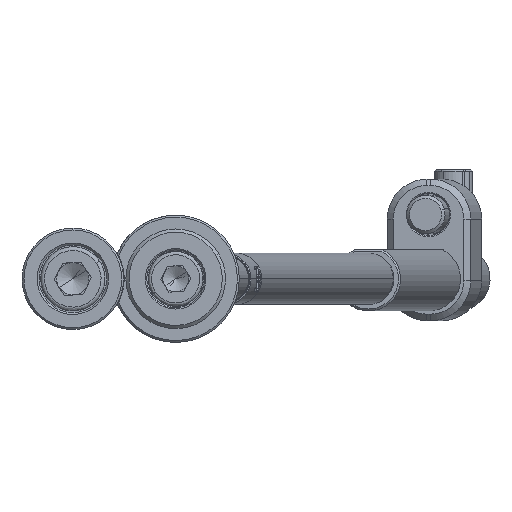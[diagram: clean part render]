
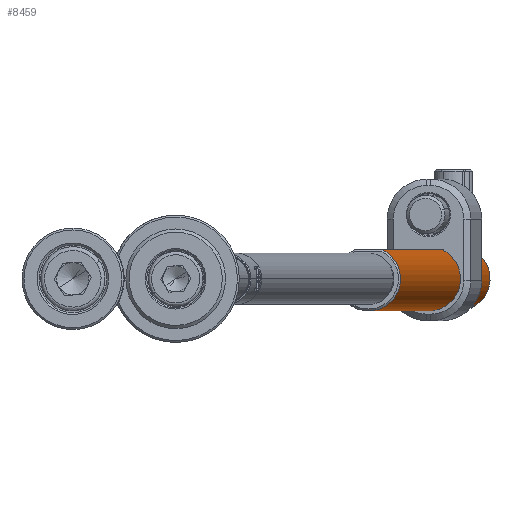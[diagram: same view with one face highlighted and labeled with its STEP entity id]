
A CAD part, front view. The second image highlights one B-rep face of the part: STEP entity #8459.
In plain terms, the highlighted cylindrical face has radius 5 mm (diameter 10 mm), a partial arc.
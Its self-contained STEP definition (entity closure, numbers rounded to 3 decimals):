
#26 = EDGE_CURVE ( 'NONE', #3708, #10076, #8995, .T. ) ;
#183 = VECTOR ( 'NONE', #8786, 1000. ) ;
#238 = CARTESIAN_POINT ( 'NONE',  ( 4.202, -2.711, 8.701 ) ) ;
#372 = CARTESIAN_POINT ( 'NONE',  ( 4.438, -2.307, 11.926 ) ) ;
#564 = CARTESIAN_POINT ( 'NONE',  ( 4.5, -2.179, 199.7 ) ) ;
#1264 = ORIENTED_EDGE ( 'NONE', *, *, #26, .T. ) ;
#1358 = CARTESIAN_POINT ( 'NONE',  ( -5., 0., 199.7 ) ) ;
#1374 = CYLINDRICAL_SURFACE ( 'NONE', #1771, 5. ) ;
#1481 = VECTOR ( 'NONE', #8097, 1000. ) ;
#1771 = AXIS2_PLACEMENT_3D ( 'NONE', #4673, #10110, #9027 ) ;
#2047 = CARTESIAN_POINT ( 'NONE',  ( 4.5, -2.179, 0.3 ) ) ;
#2374 = CARTESIAN_POINT ( 'NONE',  ( 4.376, -2.422, 8.22 ) ) ;
#2568 = CARTESIAN_POINT ( 'NONE',  ( 4.068, -2.908, 9.236 ) ) ;
#3039 = VECTOR ( 'NONE', #8203, 1000. ) ;
#3376 = CIRCLE ( 'NONE', #9542, 5. ) ;
#3508 = FACE_OUTER_BOUND ( 'NONE', #3553, .T. ) ;
#3553 = EDGE_LOOP ( 'NONE', ( #1264, #5240, #12947, #7069, #13514, #6662 ) ) ;
#3635 = DIRECTION ( 'NONE',  ( 1., 0., 0. ) ) ;
#3656 = LINE ( 'NONE', #4593, #1481 ) ;
#3657 = CARTESIAN_POINT ( 'NONE',  ( 4.015, -2.98, 10.396 ) ) ;
#3708 = VERTEX_POINT ( 'NONE', #564 ) ;
#4109 = EDGE_CURVE ( 'NONE', #9919, #11823, #12592, .T. ) ;
#4183 = AXIS2_PLACEMENT_3D ( 'NONE', #9103, #8022, #4740 ) ;
#4199 = CARTESIAN_POINT ( 'NONE',  ( 4.5, -2.179, 200. ) ) ;
#4523 = EDGE_CURVE ( 'NONE', #3708, #9919, #9661, .T. ) ;
#4593 = CARTESIAN_POINT ( 'NONE',  ( 4.5, -2.179, 200. ) ) ;
#4673 = CARTESIAN_POINT ( 'NONE',  ( 0., 0., 200. ) ) ;
#4740 = DIRECTION ( 'NONE',  ( 1., 0., 0. ) ) ;
#5051 = VERTEX_POINT ( 'NONE', #7162 ) ;
#5240 = ORIENTED_EDGE ( 'NONE', *, *, #14057, .T. ) ;
#5456 = EDGE_CURVE ( 'NONE', #5051, #5984, #3376, .T. ) ;
#5611 = CARTESIAN_POINT ( 'NONE',  ( 4.107, -2.852, 9.051 ) ) ;
#5984 = VERTEX_POINT ( 'NONE', #2047 ) ;
#6219 = CARTESIAN_POINT ( 'NONE',  ( 4.5, -2.179, 12.062 ) ) ;
#6662 = ORIENTED_EDGE ( 'NONE', *, *, #4523, .F. ) ;
#6808 = CARTESIAN_POINT ( 'NONE',  ( 4.5, -2.179, 12.062 ) ) ;
#6868 = CARTESIAN_POINT ( 'NONE',  ( 4.258, -2.623, 8.532 ) ) ;
#7069 = ORIENTED_EDGE ( 'NONE', *, *, #9683, .F. ) ;
#7162 = CARTESIAN_POINT ( 'NONE',  ( -5., 0., 0.3 ) ) ;
#7809 = CARTESIAN_POINT ( 'NONE',  ( 4.259, -2.621, 11.47 ) ) ;
#8022 = DIRECTION ( 'NONE',  ( 0., 0., -1. ) ) ;
#8027 = CARTESIAN_POINT ( 'NONE',  ( 4., -3., 9.809 ) ) ;
#8097 = DIRECTION ( 'NONE',  ( 0., 0., -1. ) ) ;
#8203 = DIRECTION ( 'NONE',  ( 0., 0., -1. ) ) ;
#8459 = ADVANCED_FACE ( 'NONE', ( #3508 ), #1374, .T. ) ;
#8786 = DIRECTION ( 'NONE',  ( 0., 0., -1. ) ) ;
#8995 = CIRCLE ( 'NONE', #4183, 5. ) ;
#9027 = DIRECTION ( 'NONE',  ( -1., 0., 0. ) ) ;
#9028 = CARTESIAN_POINT ( 'NONE',  ( 4.069, -2.906, 10.771 ) ) ;
#9103 = CARTESIAN_POINT ( 'NONE',  ( 0., 0., 199.7 ) ) ;
#9282 = CARTESIAN_POINT ( 'NONE',  ( -5., 0., 200. ) ) ;
#9419 = LINE ( 'NONE', #9282, #3039 ) ;
#9542 = AXIS2_PLACEMENT_3D ( 'NONE', #13699, #11444, #3635 ) ;
#9661 = LINE ( 'NONE', #4199, #183 ) ;
#9683 = EDGE_CURVE ( 'NONE', #11823, #5984, #3656, .T. ) ;
#9919 = VERTEX_POINT ( 'NONE', #6219 ) ;
#10056 = CARTESIAN_POINT ( 'NONE',  ( 4., -3., 10.198 ) ) ;
#10076 = VERTEX_POINT ( 'NONE', #1358 ) ;
#10110 = DIRECTION ( 'NONE',  ( 0., 0., -1. ) ) ;
#10112 = CARTESIAN_POINT ( 'NONE',  ( 4.108, -2.851, 10.952 ) ) ;
#11025 = CARTESIAN_POINT ( 'NONE',  ( 4.5, -2.179, 7.938 ) ) ;
#11266 = CARTESIAN_POINT ( 'NONE',  ( 4.376, -2.421, 11.781 ) ) ;
#11444 = DIRECTION ( 'NONE',  ( 0., 0., 1. ) ) ;
#11823 = VERTEX_POINT ( 'NONE', #11025 ) ;
#12205 = CARTESIAN_POINT ( 'NONE',  ( 4.203, -2.709, 11.303 ) ) ;
#12412 = CARTESIAN_POINT ( 'NONE',  ( 4.014, -2.982, 9.617 ) ) ;
#12592 = B_SPLINE_CURVE_WITH_KNOTS ( 'NONE', 3,
 ( #6808, #372, #11266, #7809, #12205, #10112, #9028, #3657, #10056, #8027, #12412, #2568, #5611, #238, #6868, #2374, #13304, #13370 ),
 .UNSPECIFIED., .F., .F.,
 ( 4, 2, 2, 2, 2, 2, 2, 2, 4 ),
 ( 0., 0.001, 0.001, 0.002, 0.002, 0.003, 0.003, 0.004, 0.005 ),
 .UNSPECIFIED. ) ;
#12947 = ORIENTED_EDGE ( 'NONE', *, *, #5456, .T. ) ;
#13304 = CARTESIAN_POINT ( 'NONE',  ( 4.438, -2.308, 8.074 ) ) ;
#13370 = CARTESIAN_POINT ( 'NONE',  ( 4.5, -2.179, 7.938 ) ) ;
#13514 = ORIENTED_EDGE ( 'NONE', *, *, #4109, .F. ) ;
#13699 = CARTESIAN_POINT ( 'NONE',  ( 0., 0., 0.3 ) ) ;
#14057 = EDGE_CURVE ( 'NONE', #10076, #5051, #9419, .T. ) ;
